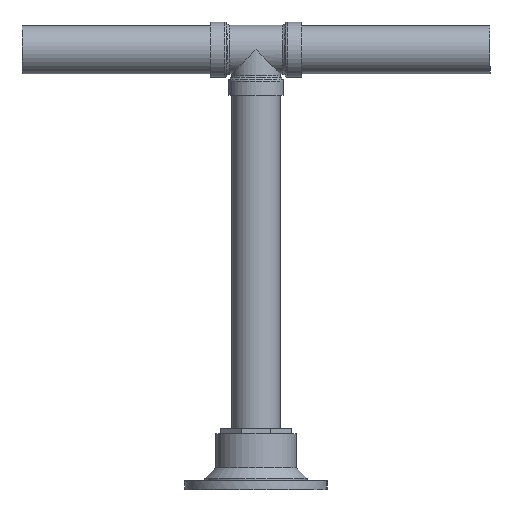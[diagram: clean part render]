
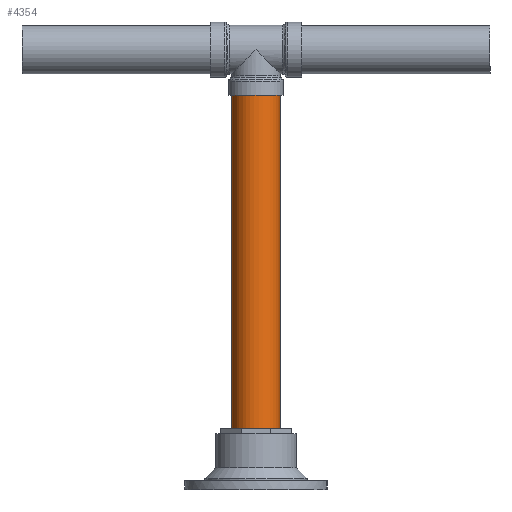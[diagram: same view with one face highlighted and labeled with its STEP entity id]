
A CAD part, top view. The second image highlights one B-rep face of the part: STEP entity #4354.
In plain terms, the highlighted cylindrical face has radius 30.163 mm (diameter 60.325 mm), a full revolution.
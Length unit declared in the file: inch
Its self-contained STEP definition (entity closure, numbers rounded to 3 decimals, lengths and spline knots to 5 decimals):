
#394=CYLINDRICAL_SURFACE('',#5039,1.1875);
#661=FACE_OUTER_BOUND('',#954,.T.);
#954=EDGE_LOOP('',(#4055,#4056,#4057,#4058));
#1207=LINE('',#9639,#1454);
#1454=VECTOR('',#6464,1.1875);
#1783=CIRCLE('',#5035,1.1875);
#1786=CIRCLE('',#5040,1.1875);
#2160=VERTEX_POINT('',#9629);
#2163=VERTEX_POINT('',#9638);
#2791=EDGE_CURVE('',#2160,#2160,#1783,.T.);
#2795=EDGE_CURVE('',#2160,#2163,#1207,.T.);
#2796=EDGE_CURVE('',#2163,#2163,#1786,.T.);
#4055=ORIENTED_EDGE('',*,*,#2791,.T.);
#4056=ORIENTED_EDGE('',*,*,#2795,.T.);
#4057=ORIENTED_EDGE('',*,*,#2796,.T.);
#4058=ORIENTED_EDGE('',*,*,#2795,.F.);
#4354=ADVANCED_FACE('',(#661),#394,.T.);
#5035=AXIS2_PLACEMENT_3D('',#9630,#6453,#6454);
#5039=AXIS2_PLACEMENT_3D('',#9637,#6462,#6463);
#5040=AXIS2_PLACEMENT_3D('',#9640,#6465,#6466);
#6453=DIRECTION('center_axis',(0.,0.,-1.));
#6454=DIRECTION('ref_axis',(1.,0.,0.));
#6462=DIRECTION('center_axis',(0.,0.,1.));
#6463=DIRECTION('ref_axis',(1.,0.,0.));
#6464=DIRECTION('',(0.,0.,-1.));
#6465=DIRECTION('center_axis',(0.,0.,1.));
#6466=DIRECTION('ref_axis',(1.,0.,0.));
#9629=CARTESIAN_POINT('',(-1.1875,0.,-12.));
#9630=CARTESIAN_POINT('Origin',(0.,0.,-12.));
#9637=CARTESIAN_POINT('Origin',(0.,0.,-30.));
#9638=CARTESIAN_POINT('',(-1.1875,0.,-30.));
#9639=CARTESIAN_POINT('',(-1.1875,0.,-30.));
#9640=CARTESIAN_POINT('Origin',(0.,0.,-30.));
